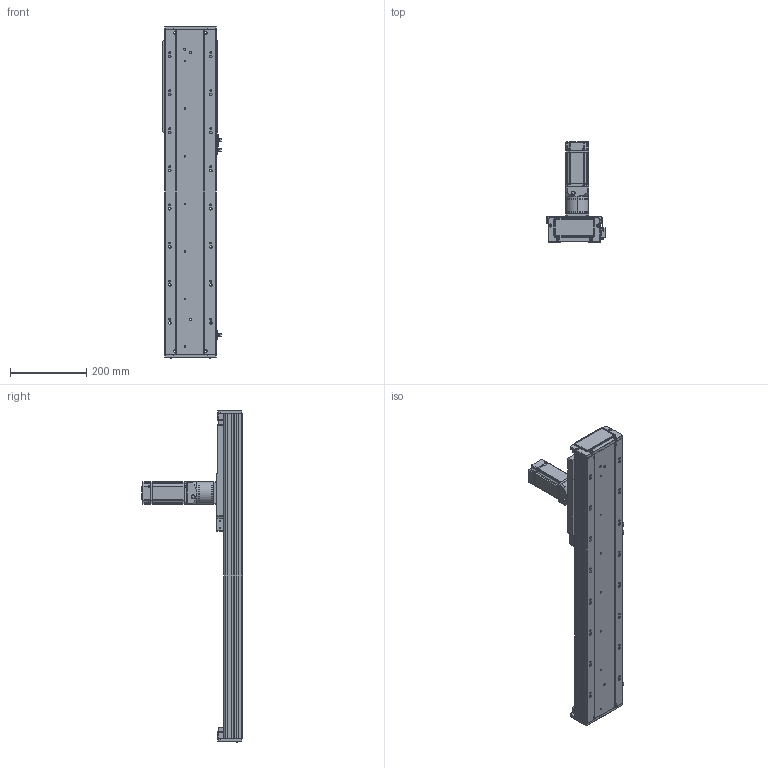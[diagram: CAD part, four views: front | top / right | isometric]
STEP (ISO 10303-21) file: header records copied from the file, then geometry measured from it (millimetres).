
FILE_DESCRIPTION (( 'STEP AP203' ), '1' );
FILE_NAME ('RY140-C-500-UK(ÖÐÐÔ).STEP', '2022-08-01T07:17:26', ( '' ), ( '' ), 'SwSTEP 2.0', 'SolidWorks 2016', '' );
FILE_SCHEMA (( 'CONFIG_CONTROL_DESIGN' ));
Length unit declared in the file: millimetre
Products named in the file (12): RY140-C-500-UK(笢俶); RY140-喘沭賑輸; 15; RY140-喘謫萇儂覃誹啣; 140蚥薯蝶輸; RY140-絳寢EGH15-300-MK_500; RY140-300齿条模组型材底座_500; 覜茼ん672; RY140-喘沭裔啣; RY120外置感应片(140共用）; 60ZDF珨撰俋倛芞T1 200W M4; 絳寢賑輸EGH15
Assembly tree (21 placements, depth 2):
  RY140-C-500-UK(笢俶)
    RY140-300齿条模组型材底座_500
    RY140-絳寢EGH15-300-MK_500  x2
    絳寢賑輸EGH15  x6
    RY140-喘沭裔啣  x2
    覜茼ん672  x3
    RY140-喘沭賑輸
    RY120外置感应片(140共用）
    RY140-喘謫萇儂覃誹啣
    140蚥薯蝶輸  x2
    60ZDF珨撰俋倛芞T1 200W M4
    15
Bounding box: 153.7 x 263.5 x 872 mm (x, y, z)
Volume: 3837342.1 mm3; surface area: 953268.7 mm2
Topology: 21 solids, 21 shells, 2538 faces, 6670 edges, 4318 vertices
Faces by surface type: cylinder 1270, plane 1034, cone 202, sphere 12, bspline 10, torus 10
Entity records: 58064 total; most frequent: CARTESIAN_POINT 11866, DIRECTION 9610, ORIENTED_EDGE 9160, EDGE_CURVE 4580, AXIS2_PLACEMENT_3D 3569, VERTEX_POINT 2997, VECTOR 2472, LINE 2472
